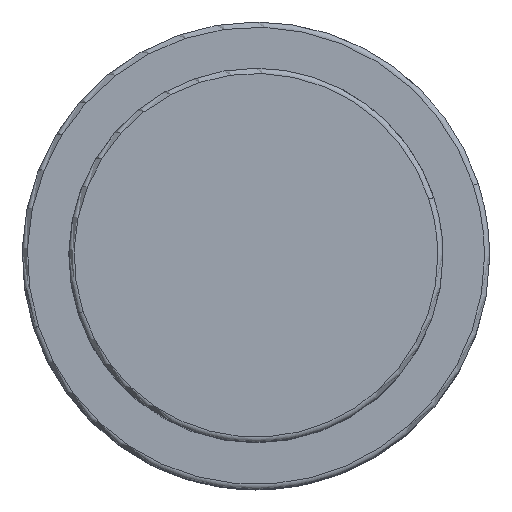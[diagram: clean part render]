
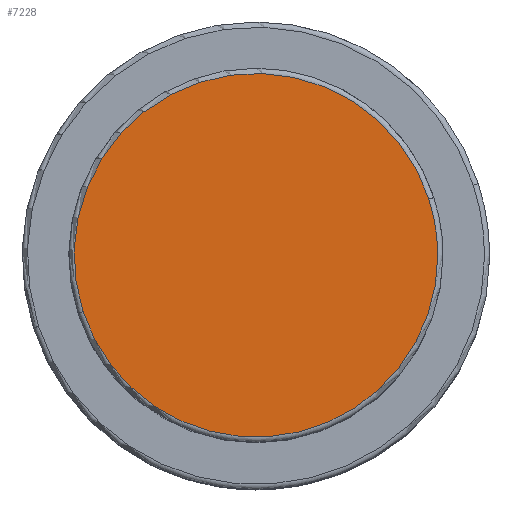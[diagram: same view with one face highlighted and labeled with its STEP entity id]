
A CAD part, top view. The second image highlights one B-rep face of the part: STEP entity #7228.
In plain terms, the highlighted planar face has unit normal (0, 0, 1).
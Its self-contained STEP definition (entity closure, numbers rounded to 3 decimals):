
#7161=CARTESIAN_POINT('',(16.643,5.408,53.0));
#7162=VERTEX_POINT('',#7161);
#7180=CARTESIAN_POINT('',(-16.643,-5.408,53.0));
#7181=VERTEX_POINT('',#7180);
#7189=CARTESIAN_POINT('',(0.0,0.0,53.0));
#7190=DIRECTION('',(0.0,0.0,1.0));
#7191=DIRECTION('',(1.0,0.0,0.0));
#7192=AXIS2_PLACEMENT_3D('',#7189,#7190,#7191);
#7193=CIRCLE('',#7192,17.5);
#7194=EDGE_CURVE('no 3656',#7162,#7181,#7193,.T.);
#7204=CARTESIAN_POINT('',(17.5,0.0,53.0));
#7205=VERTEX_POINT('',#7204);
#7206=CARTESIAN_POINT('',(0.0,0.0,53.0));
#7207=DIRECTION('',(0.0,0.0,1.0));
#7208=DIRECTION('',(1.0,0.0,0.0));
#7209=AXIS2_PLACEMENT_3D('',#7206,#7207,#7208);
#7210=CIRCLE('',#7209,17.5);
#7211=EDGE_CURVE('no 3665',#7205,#7162,#7210,.T.);
#7212=ORIENTED_EDGE('',*,*,#7211,.T.);
#7213=ORIENTED_EDGE('',*,*,#7194,.T.);
#7214=CARTESIAN_POINT('',(0.0,0.0,53.0));
#7215=DIRECTION('',(0.0,0.0,1.0));
#7216=DIRECTION('',(1.0,0.0,0.0));
#7217=AXIS2_PLACEMENT_3D('',#7214,#7215,#7216);
#7218=CIRCLE('',#7217,17.5);
#7219=EDGE_CURVE('no 3671',#7181,#7205,#7218,.T.);
#7220=ORIENTED_EDGE('',*,*,#7219,.T.);
#7221=EDGE_LOOP('',(#7212,#7213,#7220));
#7222=FACE_OUTER_BOUND('',#7221,.T.);
#7223=CARTESIAN_POINT('',(0.0,0.0,53.0));
#7224=DIRECTION('',(0.0,0.0,1.0));
#7225=DIRECTION('',(1.0,0.0,0.0));
#7226=AXIS2_PLACEMENT_3D('',#7223,#7224,#7225);
#7227=PLANE('',#7226);
#7228=ADVANCED_FACE('no 3658',(#7222),#7227,.T.);
